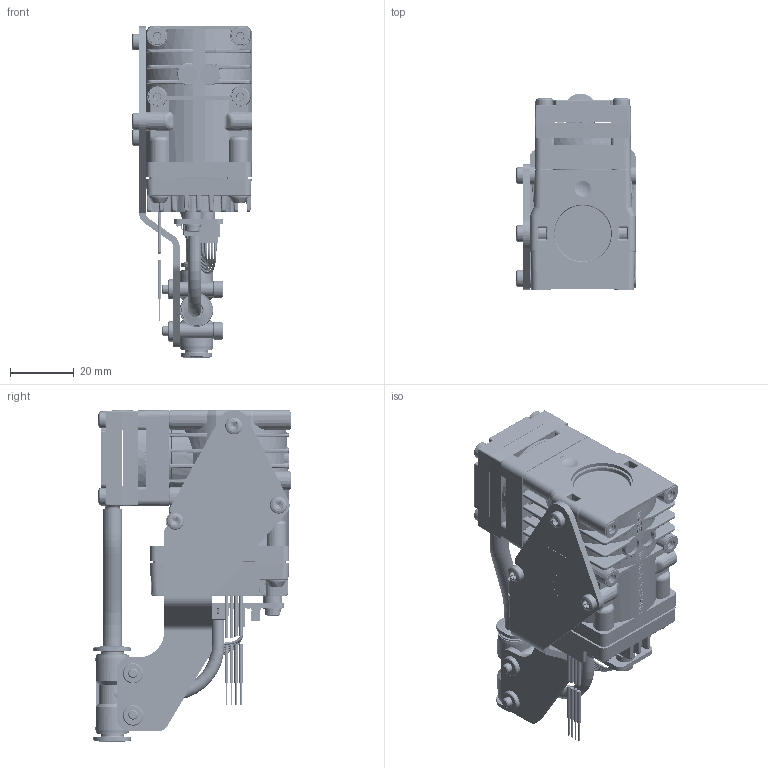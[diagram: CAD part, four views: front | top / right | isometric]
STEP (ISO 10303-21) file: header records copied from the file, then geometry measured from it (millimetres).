
FILE_DESCRIPTION((''),'2;1');
FILE_NAME('CAD1183306_SW','2026-09-15T13:14:55',('LuternauerR'),('KNF Flodos AG, 6210 Sursee, Switzerland'),'CREO PARAMETRIC BY PTC INC, 2025010','CREO PARAMETRIC BY PTC INC, 2025010','');
FILE_SCHEMA(('AP242_MANAGED_MODEL_BASED_3D_ENGINEERING_MIM_LF { 1 0 10303 442 1 1 4 }'));
Products named in the file (1): CAD1183306_SW
Bounding box: 37.7 x 61.74 x 103.95 mm (x, y, z)
Volume: 91234.5 mm3; surface area: 38093.8 mm2
Topology: 9 solids, 11 shells, 5813 faces, 15169 edges, 9476 vertices
Faces by surface type: plane 2733, cylinder 1335, bspline 671, extrusion 307, cone 294, torus 282, sphere 191
Full cylindrical faces by diameter (mm): 0.4 x1
Entity records: 322391 total; most frequent: CARTESIAN_POINT 144187, ORIENTED_EDGE 30250, DIRECTION 25383, EDGE_CURVE 15125, VERTEX_POINT 9476, VECTOR 8945, LINE 8638, AXIS2_PLACEMENT_3D 8219
